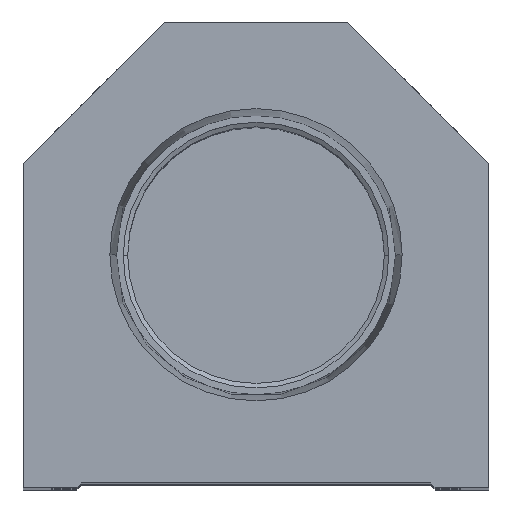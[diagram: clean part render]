
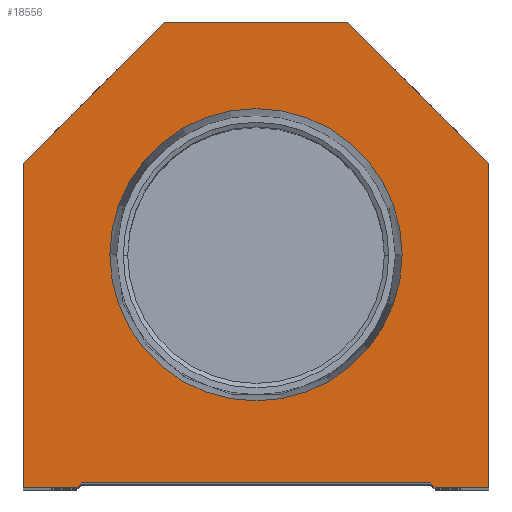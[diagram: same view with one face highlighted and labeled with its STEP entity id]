
A CAD part, top view. The second image highlights one B-rep face of the part: STEP entity #18556.
In plain terms, the highlighted planar face has unit normal (0, 0, 1).
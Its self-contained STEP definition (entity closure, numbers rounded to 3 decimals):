
#45 = ORIENTED_EDGE ( 'NONE', *, *, #11000, .T. ) ;
#114 = DIRECTION ( 'NONE',  ( 0., 0., 1. ) ) ;
#261 = EDGE_CURVE ( 'NONE', #4338, #19097, #6873, .T. ) ;
#335 = DIRECTION ( 'NONE',  ( 1., 0., 0. ) ) ;
#879 = CARTESIAN_POINT ( 'NONE',  ( 25.4, 35.4, 0. ) ) ;
#1043 = ORIENTED_EDGE ( 'NONE', *, *, #7091, .F. ) ;
#1142 = EDGE_LOOP ( 'NONE', ( #14734, #4905, #45, #10924, #11819, #14575, #16040, #6658, #2973, #13374 ) ) ;
#1425 = AXIS2_PLACEMENT_3D ( 'NONE', #3087, #16771, #335 ) ;
#1496 = DIRECTION ( 'NONE',  ( 1., 0., 0. ) ) ;
#1500 = CARTESIAN_POINT ( 'NONE',  ( 9.775, 9.775, 0. ) ) ;
#1552 = CARTESIAN_POINT ( 'NONE',  ( -9.775, 9.775, 0. ) ) ;
#2022 = AXIS2_PLACEMENT_3D ( 'NONE', #12524, #6771, #6487 ) ;
#2251 = LINE ( 'NONE', #8249, #11102 ) ;
#2254 = CIRCLE ( 'NONE', #9483, 15.947 ) ;
#2399 = CARTESIAN_POINT ( 'NONE',  ( 10., 50.8, 0. ) ) ;
#2973 = ORIENTED_EDGE ( 'NONE', *, *, #16244, .T. ) ;
#3087 = CARTESIAN_POINT ( 'NONE',  ( 0., 25.4, 0. ) ) ;
#3222 = VECTOR ( 'NONE', #19095, 1000. ) ;
#3317 = CIRCLE ( 'NONE', #1425, 15.947 ) ;
#3473 = LINE ( 'NONE', #1500, #11902 ) ;
#3514 = VERTEX_POINT ( 'NONE', #9625 ) ;
#3802 = EDGE_CURVE ( 'NONE', #12406, #3514, #6110, .T. ) ;
#4140 = CARTESIAN_POINT ( 'NONE',  ( 19.55, 0., 0. ) ) ;
#4338 = VERTEX_POINT ( 'NONE', #6220 ) ;
#4599 = CARTESIAN_POINT ( 'NONE',  ( 10., 50.8, 0. ) ) ;
#4905 = ORIENTED_EDGE ( 'NONE', *, *, #3802, .T. ) ;
#5249 = LINE ( 'NONE', #9259, #12797 ) ;
#5718 = DIRECTION ( 'NONE',  ( 0.707, 0.707, 0. ) ) ;
#5916 = EDGE_CURVE ( 'NONE', #19097, #9796, #13962, .T. ) ;
#6005 = CARTESIAN_POINT ( 'NONE',  ( 0., 25.4, 0. ) ) ;
#6054 = VERTEX_POINT ( 'NONE', #9615 ) ;
#6110 = LINE ( 'NONE', #1552, #14800 ) ;
#6123 = CARTESIAN_POINT ( 'NONE',  ( 19.05, 0.5, 0. ) ) ;
#6161 = VERTEX_POINT ( 'NONE', #4140 ) ;
#6220 = CARTESIAN_POINT ( 'NONE',  ( 25.4, 35.4, 0. ) ) ;
#6487 = DIRECTION ( 'NONE',  ( 1., 0., 0. ) ) ;
#6658 = ORIENTED_EDGE ( 'NONE', *, *, #5916, .T. ) ;
#6762 = DIRECTION ( 'NONE',  ( 1., 0., 0. ) ) ;
#6771 = DIRECTION ( 'NONE',  ( 0., 0., 1. ) ) ;
#6873 = LINE ( 'NONE', #879, #12122 ) ;
#7091 = EDGE_CURVE ( 'NONE', #7224, #6054, #3317, .T. ) ;
#7224 = VERTEX_POINT ( 'NONE', #8447 ) ;
#7588 = CARTESIAN_POINT ( 'NONE',  ( -25.4, 0., 0. ) ) ;
#7834 = VECTOR ( 'NONE', #1496, 1000. ) ;
#8187 = DIRECTION ( 'NONE',  ( -1., 0., 0. ) ) ;
#8249 = CARTESIAN_POINT ( 'NONE',  ( 25.4, 0., 0. ) ) ;
#8278 = VERTEX_POINT ( 'NONE', #13111 ) ;
#8447 = CARTESIAN_POINT ( 'NONE',  ( 15.947, 25.4, 0. ) ) ;
#8468 = EDGE_CURVE ( 'NONE', #6054, #7224, #2254, .T. ) ;
#8501 = CARTESIAN_POINT ( 'NONE',  ( 25.4, 0., 0. ) ) ;
#8877 = CARTESIAN_POINT ( 'NONE',  ( -25.4, 35.4, 0. ) ) ;
#9052 = LINE ( 'NONE', #7588, #17476 ) ;
#9259 = CARTESIAN_POINT ( 'NONE',  ( -19.05, 0., 0. ) ) ;
#9262 = LINE ( 'NONE', #19262, #7834 ) ;
#9329 = FACE_OUTER_BOUND ( 'NONE', #1142, .T. ) ;
#9347 = DIRECTION ( 'NONE',  ( 1., 0., 0. ) ) ;
#9418 = FACE_BOUND ( 'NONE', #13876, .T. ) ;
#9483 = AXIS2_PLACEMENT_3D ( 'NONE', #6005, #114, #6762 ) ;
#9615 = CARTESIAN_POINT ( 'NONE',  ( -15.947, 25.4, 0. ) ) ;
#9625 = CARTESIAN_POINT ( 'NONE',  ( -19.05, 0.5, 0. ) ) ;
#9647 = ORIENTED_EDGE ( 'NONE', *, *, #8468, .F. ) ;
#9796 = VERTEX_POINT ( 'NONE', #12197 ) ;
#10462 = EDGE_CURVE ( 'NONE', #8278, #12406, #5249, .T. ) ;
#10924 = ORIENTED_EDGE ( 'NONE', *, *, #19096, .T. ) ;
#10978 = EDGE_CURVE ( 'NONE', #11704, #8278, #9052, .T. ) ;
#11000 = EDGE_CURVE ( 'NONE', #3514, #11296, #9262, .T. ) ;
#11102 = VECTOR ( 'NONE', #11662, 1000. ) ;
#11156 = EDGE_CURVE ( 'NONE', #6161, #12317, #14921, .T. ) ;
#11296 = VERTEX_POINT ( 'NONE', #6123 ) ;
#11662 = DIRECTION ( 'NONE',  ( 0., 1., 0. ) ) ;
#11704 = VERTEX_POINT ( 'NONE', #15397 ) ;
#11819 = ORIENTED_EDGE ( 'NONE', *, *, #11156, .T. ) ;
#11902 = VECTOR ( 'NONE', #17941, 1000. ) ;
#12122 = VECTOR ( 'NONE', #15786, 1000. ) ;
#12197 = CARTESIAN_POINT ( 'NONE',  ( -10., 50.8, 0. ) ) ;
#12317 = VERTEX_POINT ( 'NONE', #8501 ) ;
#12406 = VERTEX_POINT ( 'NONE', #13279 ) ;
#12495 = VECTOR ( 'NONE', #17125, 1000. ) ;
#12524 = CARTESIAN_POINT ( 'NONE',  ( 0., 0., 0. ) ) ;
#12797 = VECTOR ( 'NONE', #9347, 1000. ) ;
#13111 = CARTESIAN_POINT ( 'NONE',  ( -25.4, 0., 0. ) ) ;
#13279 = CARTESIAN_POINT ( 'NONE',  ( -19.55, 0., 0. ) ) ;
#13374 = ORIENTED_EDGE ( 'NONE', *, *, #10978, .T. ) ;
#13876 = EDGE_LOOP ( 'NONE', ( #1043, #9647 ) ) ;
#13962 = LINE ( 'NONE', #2399, #14190 ) ;
#14190 = VECTOR ( 'NONE', #8187, 1000. ) ;
#14337 = EDGE_CURVE ( 'NONE', #12317, #4338, #2251, .T. ) ;
#14575 = ORIENTED_EDGE ( 'NONE', *, *, #14337, .T. ) ;
#14734 = ORIENTED_EDGE ( 'NONE', *, *, #10462, .T. ) ;
#14738 = LINE ( 'NONE', #8877, #3222 ) ;
#14800 = VECTOR ( 'NONE', #5718, 1000. ) ;
#14921 = LINE ( 'NONE', #15589, #12495 ) ;
#15006 = DIRECTION ( 'NONE',  ( 0., -1., 0. ) ) ;
#15397 = CARTESIAN_POINT ( 'NONE',  ( -25.4, 35.4, 0. ) ) ;
#15589 = CARTESIAN_POINT ( 'NONE',  ( 19.05, 0., 0. ) ) ;
#15786 = DIRECTION ( 'NONE',  ( -0.707, 0.707, 0. ) ) ;
#16040 = ORIENTED_EDGE ( 'NONE', *, *, #261, .T. ) ;
#16244 = EDGE_CURVE ( 'NONE', #9796, #11704, #14738, .T. ) ;
#16771 = DIRECTION ( 'NONE',  ( 0., 0., 1. ) ) ;
#17125 = DIRECTION ( 'NONE',  ( 1., 0., 0. ) ) ;
#17476 = VECTOR ( 'NONE', #15006, 1000. ) ;
#17941 = DIRECTION ( 'NONE',  ( 0.707, -0.707, 0. ) ) ;
#18556 = ADVANCED_FACE ( 'NONE', ( #9418, #9329 ), #18564, .T. ) ;
#18564 = PLANE ( 'NONE',  #2022 ) ;
#19095 = DIRECTION ( 'NONE',  ( -0.707, -0.707, 0. ) ) ;
#19096 = EDGE_CURVE ( 'NONE', #11296, #6161, #3473, .T. ) ;
#19097 = VERTEX_POINT ( 'NONE', #4599 ) ;
#19262 = CARTESIAN_POINT ( 'NONE',  ( -19.05, 0.5, 0. ) ) ;
